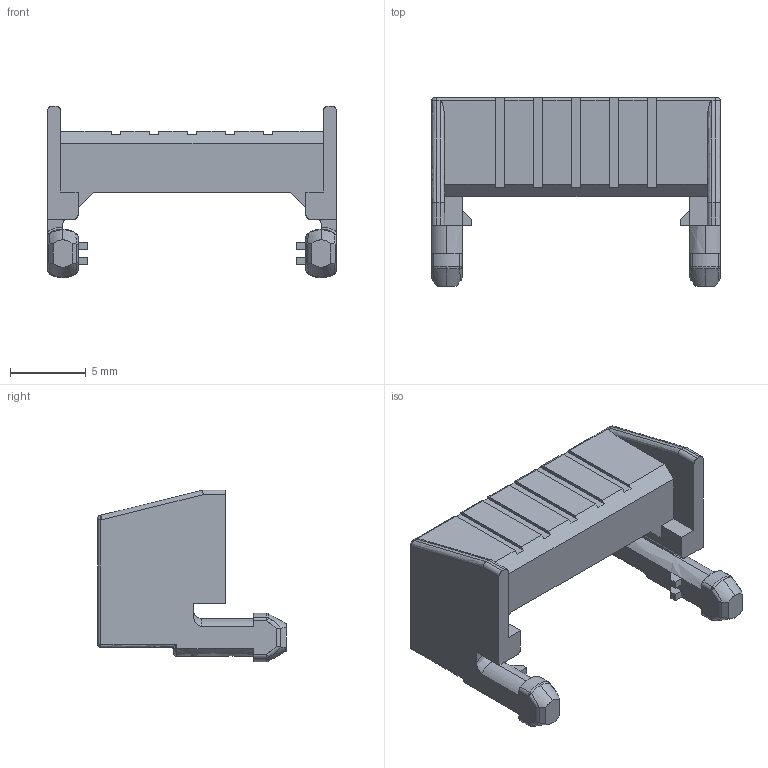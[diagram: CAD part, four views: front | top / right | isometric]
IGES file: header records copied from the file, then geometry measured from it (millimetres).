
Start section: SolidWorks IGES file using analytic representation for surfaces
Bounding box: 19 x 12.4 x 11.3 mm (x, y, z)
Surface area: 806.8 mm2 (no closed solid volume)
Topology: 0 solids, 0 shells, 208 faces, 1330 edges, 1322 vertices
Faces by surface type: bspline 125, revolution 83
